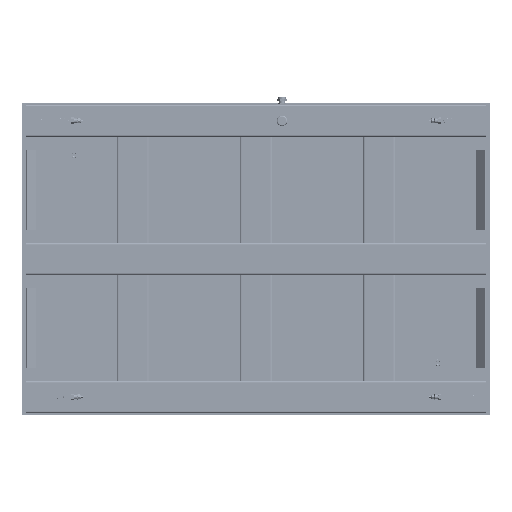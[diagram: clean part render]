
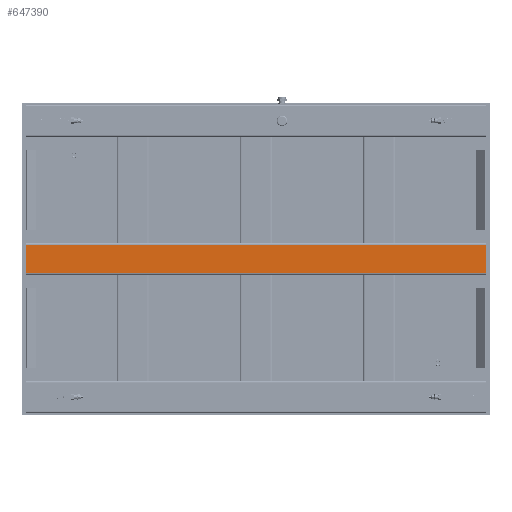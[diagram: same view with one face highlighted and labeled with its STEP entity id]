
A CAD part, front view. The second image highlights one B-rep face of the part: STEP entity #647390.
In plain terms, the highlighted planar face has unit normal (0.001, -1, 0.001).
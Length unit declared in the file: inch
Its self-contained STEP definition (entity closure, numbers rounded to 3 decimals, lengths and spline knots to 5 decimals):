
#3980 = DIRECTION ( 'NONE',  ( 0., 1., 0. ) ) ;
#16292 = VECTOR ( 'NONE', #288635, 39.37008 ) ;
#38154 = EDGE_CURVE ( 'NONE', #63052, #290880, #104637, .T. ) ;
#45487 = ORIENTED_EDGE ( 'NONE', *, *, #309148, .T. ) ;
#63052 = VERTEX_POINT ( 'NONE', #528503 ) ;
#79747 = LINE ( 'NONE', #122327, #604856 ) ;
#104637 = LINE ( 'NONE', #238603, #555964 ) ;
#121644 = EDGE_CURVE ( 'NONE', #702909, #63052, #642569, .T. ) ;
#122327 = CARTESIAN_POINT ( 'NONE',  ( 2.1875, 0., 0. ) ) ;
#132988 = FACE_OUTER_BOUND ( 'NONE', #326433, .T. ) ;
#219310 = CARTESIAN_POINT ( 'NONE',  ( 2.1875, 0., 0. ) ) ;
#230687 = PLANE ( 'NONE',  #668075 ) ;
#238603 = CARTESIAN_POINT ( 'NONE',  ( -2.1875, 0., 0. ) ) ;
#250893 = DIRECTION ( 'NONE',  ( 0., 0., 1. ) ) ;
#288635 = DIRECTION ( 'NONE',  ( -1., 0., 0. ) ) ;
#290880 = VERTEX_POINT ( 'NONE', #478142 ) ;
#309148 = EDGE_CURVE ( 'NONE', #456248, #702909, #79747, .T. ) ;
#326433 = EDGE_LOOP ( 'NONE', ( #481277, #667413, #715585, #45487 ) ) ;
#336835 = VECTOR ( 'NONE', #453831, 39.37008 ) ;
#423824 = EDGE_CURVE ( 'NONE', #290880, #456248, #594596, .T. ) ;
#453831 = DIRECTION ( 'NONE',  ( 1., 0., 0. ) ) ;
#456248 = VERTEX_POINT ( 'NONE', #219310 ) ;
#474963 = CARTESIAN_POINT ( 'NONE',  ( 0., 0., 0. ) ) ;
#478142 = CARTESIAN_POINT ( 'NONE',  ( -2.1875, 0., 0. ) ) ;
#481277 = ORIENTED_EDGE ( 'NONE', *, *, #121644, .T. ) ;
#528503 = CARTESIAN_POINT ( 'NONE',  ( -2.1875, 0., 70.75 ) ) ;
#555964 = VECTOR ( 'NONE', #657889, 39.37008 ) ;
#582073 = CARTESIAN_POINT ( 'NONE',  ( -2.3125, 0., 70.75 ) ) ;
#587778 = CARTESIAN_POINT ( 'NONE',  ( 2.1875, 0., 70.75 ) ) ;
#594596 = LINE ( 'NONE', #757526, #336835 ) ;
#604856 = VECTOR ( 'NONE', #250893, 39.37008 ) ;
#642569 = LINE ( 'NONE', #582073, #16292 ) ;
#647390 = ADVANCED_FACE ( 'NONE', ( #132988 ), #230687, .F. ) ;
#652516 = DIRECTION ( 'NONE',  ( 0., 0., 1. ) ) ;
#657889 = DIRECTION ( 'NONE',  ( 0., 0., -1. ) ) ;
#667413 = ORIENTED_EDGE ( 'NONE', *, *, #38154, .T. ) ;
#668075 = AXIS2_PLACEMENT_3D ( 'NONE', #474963, #3980, #652516 ) ;
#702909 = VERTEX_POINT ( 'NONE', #587778 ) ;
#715585 = ORIENTED_EDGE ( 'NONE', *, *, #423824, .T. ) ;
#757526 = CARTESIAN_POINT ( 'NONE',  ( 2.3125, 0., 0. ) ) ;
